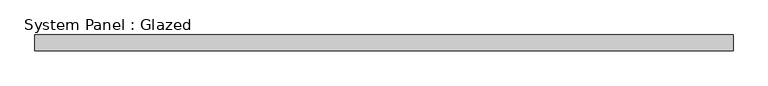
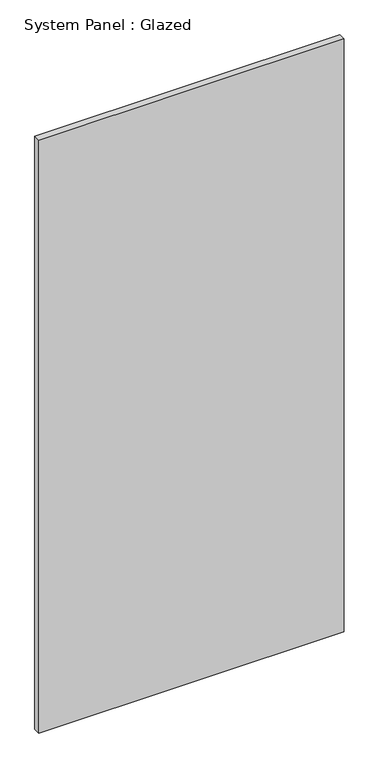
"""IFC4 building model written with IfcOpenShell, lengths in millimetres: plate geometry, System Panel : Glazed."""

from ifc_helpers import new_model, si_unit, origin, origin_with_axes, place, context, project, spatial, polyline, outline, extrude, source, transform, mapped, element, save


def system_panel_glazed_77f98377(model_context):
    return source(origin(), model_context, "Body", "SweptSolid", [
        extrude(outline(polyline([(554.226465, -12.5), (-554.226465, -12.5), (-554.226465, 12.5), (554.226465, 12.5), (554.226465, -12.5)])), origin_with_axes(), (0.0, 0.0, 1.0), 2275.0),
    ])


if __name__ == "__main__":
    model = new_model("IFC4")
    model_context = context("Model", 3, world=origin())
    ifc_project = project(units=[si_unit("LENGTHUNIT", "METRE", prefix="MILLI")], contexts=[model_context])
    site = spatial("IfcSite", under=ifc_project)
    building = spatial("IfcBuilding", under=site)
    placement = place(None, origin())
    system_panel_glazed_shape = system_panel_glazed_77f98377(model_context)
    element("IfcPlate", 1, ObjectType="System Panel : Glazed", at=placement, inside=building, context=model_context, shape_type="MappedRepresentation", body=[
        mapped(system_panel_glazed_shape, transform((0.0, 0.0, 0.0), x_axis=(1.0, 0.0, 0.0), y_axis=(0.0, 1.0, 0.0), z_axis=(0.0, 0.0, 1.0))),
    ])
    save(model, "model.ifc")
